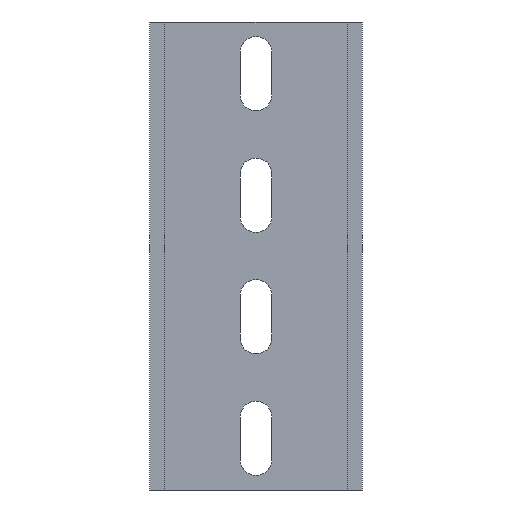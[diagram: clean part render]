
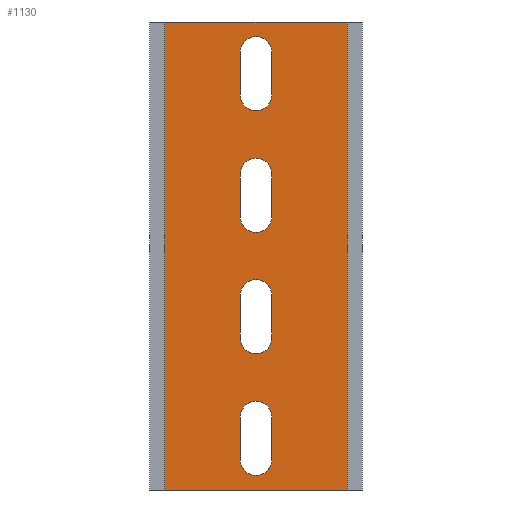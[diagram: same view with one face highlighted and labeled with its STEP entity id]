
A CAD part, front view. The second image highlights one B-rep face of the part: STEP entity #1130.
In plain terms, the highlighted planar face has unit normal (0, -1, 0).
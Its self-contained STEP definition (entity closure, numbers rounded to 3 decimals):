
#19=FACE_BOUND('',#157,.T.);
#20=FACE_BOUND('',#158,.T.);
#21=FACE_BOUND('',#159,.T.);
#22=FACE_BOUND('',#160,.T.);
#23=CIRCLE('',#1174,2.6);
#25=CIRCLE('',#1178,2.6);
#27=CIRCLE('',#1182,2.6);
#29=CIRCLE('',#1186,2.6);
#35=CIRCLE('',#1195,2.6);
#37=CIRCLE('',#1199,2.6);
#39=CIRCLE('',#1203,2.6);
#41=CIRCLE('',#1207,2.6);
#96=FACE_OUTER_BOUND('',#156,.T.);
#156=EDGE_LOOP('',(#923,#924,#925,#926));
#157=EDGE_LOOP('',(#927,#928,#929,#930));
#158=EDGE_LOOP('',(#931,#932,#933,#934));
#159=EDGE_LOOP('',(#935,#936,#937,#938));
#160=EDGE_LOOP('',(#939,#940,#941,#942));
#179=LINE('',#1556,#317);
#184=LINE('',#1570,#322);
#187=LINE('',#1580,#325);
#192=LINE('',#1594,#330);
#209=LINE('',#1634,#347);
#229=LINE('',#1681,#367);
#234=LINE('',#1695,#372);
#237=LINE('',#1705,#375);
#242=LINE('',#1719,#380);
#283=LINE('',#1807,#421);
#284=LINE('',#1810,#422);
#285=LINE('',#1811,#423);
#317=VECTOR('',#1256,10.);
#322=VECTOR('',#1269,10.);
#325=VECTOR('',#1280,10.);
#330=VECTOR('',#1293,10.);
#347=VECTOR('',#1320,10.);
#367=VECTOR('',#1348,10.);
#372=VECTOR('',#1361,10.);
#375=VECTOR('',#1372,10.);
#380=VECTOR('',#1385,10.);
#421=VECTOR('',#1476,10.);
#422=VECTOR('',#1479,10.);
#423=VECTOR('',#1480,10.);
#455=VERTEX_POINT('',#1554);
#456=VERTEX_POINT('',#1555);
#459=VERTEX_POINT('',#1563);
#461=VERTEX_POINT('',#1569);
#463=VERTEX_POINT('',#1578);
#464=VERTEX_POINT('',#1579);
#467=VERTEX_POINT('',#1587);
#469=VERTEX_POINT('',#1593);
#486=VERTEX_POINT('',#1631);
#487=VERTEX_POINT('',#1633);
#509=VERTEX_POINT('',#1679);
#510=VERTEX_POINT('',#1680);
#513=VERTEX_POINT('',#1688);
#515=VERTEX_POINT('',#1694);
#517=VERTEX_POINT('',#1703);
#518=VERTEX_POINT('',#1704);
#521=VERTEX_POINT('',#1712);
#523=VERTEX_POINT('',#1718);
#545=VERTEX_POINT('',#1805);
#546=VERTEX_POINT('',#1809);
#563=EDGE_CURVE('',#455,#456,#179,.T.);
#567=EDGE_CURVE('',#456,#459,#23,.T.);
#570=EDGE_CURVE('',#459,#461,#184,.T.);
#573=EDGE_CURVE('',#461,#455,#25,.T.);
#575=EDGE_CURVE('',#463,#464,#187,.T.);
#579=EDGE_CURVE('',#464,#467,#27,.T.);
#582=EDGE_CURVE('',#467,#469,#192,.T.);
#585=EDGE_CURVE('',#469,#463,#29,.T.);
#602=EDGE_CURVE('',#486,#487,#209,.T.);
#625=EDGE_CURVE('',#509,#510,#229,.T.);
#629=EDGE_CURVE('',#510,#513,#35,.T.);
#632=EDGE_CURVE('',#513,#515,#234,.T.);
#635=EDGE_CURVE('',#515,#509,#37,.T.);
#637=EDGE_CURVE('',#517,#518,#237,.T.);
#641=EDGE_CURVE('',#518,#521,#39,.T.);
#644=EDGE_CURVE('',#521,#523,#242,.T.);
#647=EDGE_CURVE('',#523,#517,#41,.T.);
#689=EDGE_CURVE('',#545,#487,#283,.T.);
#690=EDGE_CURVE('',#546,#545,#284,.T.);
#691=EDGE_CURVE('',#546,#486,#285,.T.);
#923=ORIENTED_EDGE('',*,*,#690,.T.);
#924=ORIENTED_EDGE('',*,*,#689,.T.);
#925=ORIENTED_EDGE('',*,*,#602,.F.);
#926=ORIENTED_EDGE('',*,*,#691,.F.);
#927=ORIENTED_EDGE('',*,*,#563,.T.);
#928=ORIENTED_EDGE('',*,*,#567,.T.);
#929=ORIENTED_EDGE('',*,*,#570,.T.);
#930=ORIENTED_EDGE('',*,*,#573,.T.);
#931=ORIENTED_EDGE('',*,*,#575,.T.);
#932=ORIENTED_EDGE('',*,*,#579,.T.);
#933=ORIENTED_EDGE('',*,*,#582,.T.);
#934=ORIENTED_EDGE('',*,*,#585,.T.);
#935=ORIENTED_EDGE('',*,*,#625,.T.);
#936=ORIENTED_EDGE('',*,*,#629,.T.);
#937=ORIENTED_EDGE('',*,*,#632,.T.);
#938=ORIENTED_EDGE('',*,*,#635,.T.);
#939=ORIENTED_EDGE('',*,*,#637,.T.);
#940=ORIENTED_EDGE('',*,*,#641,.T.);
#941=ORIENTED_EDGE('',*,*,#644,.T.);
#942=ORIENTED_EDGE('',*,*,#647,.T.);
#1076=PLANE('',#1231);
#1130=ADVANCED_FACE('',(#96,#19,#20,#21,#22),#1076,.T.);
#1174=AXIS2_PLACEMENT_3D('',#1564,#1262,#1263);
#1178=AXIS2_PLACEMENT_3D('',#1575,#1274,#1275);
#1182=AXIS2_PLACEMENT_3D('',#1588,#1286,#1287);
#1186=AXIS2_PLACEMENT_3D('',#1599,#1298,#1299);
#1195=AXIS2_PLACEMENT_3D('',#1689,#1354,#1355);
#1199=AXIS2_PLACEMENT_3D('',#1700,#1366,#1367);
#1203=AXIS2_PLACEMENT_3D('',#1713,#1378,#1379);
#1207=AXIS2_PLACEMENT_3D('',#1724,#1390,#1391);
#1231=AXIS2_PLACEMENT_3D('',#1808,#1477,#1478);
#1256=DIRECTION('',(0.,0.,-1.));
#1262=DIRECTION('center_axis',(0.,1.,0.));
#1263=DIRECTION('ref_axis',(1.,0.,0.));
#1269=DIRECTION('',(0.,0.,1.));
#1274=DIRECTION('center_axis',(0.,1.,0.));
#1275=DIRECTION('ref_axis',(-1.,0.,0.));
#1280=DIRECTION('',(0.,0.,-1.));
#1286=DIRECTION('center_axis',(0.,1.,0.));
#1287=DIRECTION('ref_axis',(1.,0.,0.));
#1293=DIRECTION('',(0.,0.,1.));
#1298=DIRECTION('center_axis',(0.,1.,0.));
#1299=DIRECTION('ref_axis',(-1.,0.,0.));
#1320=DIRECTION('',(1.,0.,0.));
#1348=DIRECTION('',(0.,0.,-1.));
#1354=DIRECTION('center_axis',(0.,1.,0.));
#1355=DIRECTION('ref_axis',(1.,0.,0.));
#1361=DIRECTION('',(0.,0.,1.));
#1366=DIRECTION('center_axis',(0.,1.,0.));
#1367=DIRECTION('ref_axis',(-1.,0.,0.));
#1372=DIRECTION('',(0.,0.,-1.));
#1378=DIRECTION('center_axis',(0.,1.,0.));
#1379=DIRECTION('ref_axis',(1.,0.,0.));
#1385=DIRECTION('',(0.,0.,1.));
#1390=DIRECTION('center_axis',(0.,1.,0.));
#1391=DIRECTION('ref_axis',(-1.,0.,0.));
#1476=DIRECTION('',(0.,0.,1.));
#1477=DIRECTION('center_axis',(0.,-1.,0.));
#1478=DIRECTION('ref_axis',(1.,0.,0.));
#1479=DIRECTION('',(1.,0.,0.));
#1480=DIRECTION('',(0.,0.,1.));
#1554=CARTESIAN_POINT('',(2.6,0.,72.));
#1555=CARTESIAN_POINT('',(2.6,0.,65.));
#1556=CARTESIAN_POINT('',(2.6,0.,32.5));
#1563=CARTESIAN_POINT('',(-2.6,0.,65.));
#1564=CARTESIAN_POINT('Origin',(0.,0.,
65.));
#1569=CARTESIAN_POINT('',(-2.6,0.,72.));
#1570=CARTESIAN_POINT('',(-2.6,0.,36.));
#1575=CARTESIAN_POINT('Origin',(0.,0.,
72.));
#1578=CARTESIAN_POINT('',(2.6,0.,52.));
#1579=CARTESIAN_POINT('',(2.6,0.,45.));
#1580=CARTESIAN_POINT('',(2.6,0.,22.5));
#1587=CARTESIAN_POINT('',(-2.6,0.,45.));
#1588=CARTESIAN_POINT('Origin',(0.,0.,
45.));
#1593=CARTESIAN_POINT('',(-2.6,0.,52.));
#1594=CARTESIAN_POINT('',(-2.6,0.,26.));
#1599=CARTESIAN_POINT('Origin',(0.,0.,
52.));
#1631=CARTESIAN_POINT('',(-15.,0.,77.));
#1633=CARTESIAN_POINT('',(15.,0.,77.));
#1634=CARTESIAN_POINT('',(-15.,0.,77.));
#1679=CARTESIAN_POINT('',(2.6,0.,32.));
#1680=CARTESIAN_POINT('',(2.6,0.,25.));
#1681=CARTESIAN_POINT('',(2.6,0.,12.5));
#1688=CARTESIAN_POINT('',(-2.6,0.,25.));
#1689=CARTESIAN_POINT('Origin',(0.,0.,
25.));
#1694=CARTESIAN_POINT('',(-2.6,0.,32.));
#1695=CARTESIAN_POINT('',(-2.6,0.,16.));
#1700=CARTESIAN_POINT('Origin',(0.,0.,
32.));
#1703=CARTESIAN_POINT('',(2.6,0.,12.));
#1704=CARTESIAN_POINT('',(2.6,0.,5.));
#1705=CARTESIAN_POINT('',(2.6,0.,2.5));
#1712=CARTESIAN_POINT('',(-2.6,0.,5.));
#1713=CARTESIAN_POINT('Origin',(0.,0.,
5.));
#1718=CARTESIAN_POINT('',(-2.6,0.,12.));
#1719=CARTESIAN_POINT('',(-2.6,0.,6.));
#1724=CARTESIAN_POINT('Origin',(0.,0.,
12.));
#1805=CARTESIAN_POINT('',(15.,0.,0.));
#1807=CARTESIAN_POINT('',(15.,0.,0.));
#1808=CARTESIAN_POINT('Origin',(-15.,0.,0.));
#1809=CARTESIAN_POINT('',(-15.,0.,0.));
#1810=CARTESIAN_POINT('',(-15.,0.,0.));
#1811=CARTESIAN_POINT('',(-15.,0.,0.));
